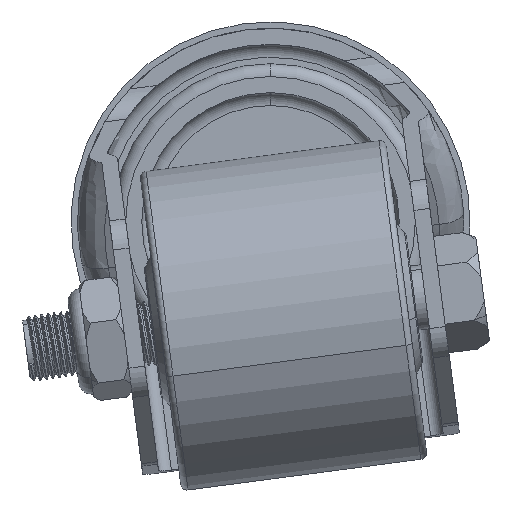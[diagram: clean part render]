
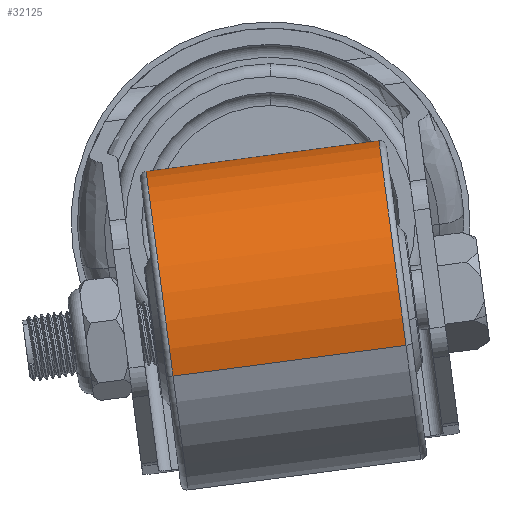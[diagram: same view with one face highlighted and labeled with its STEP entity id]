
A CAD part, front view. The second image highlights one B-rep face of the part: STEP entity #32125.
In plain terms, the highlighted cylindrical face has radius 25 mm (diameter 50 mm), a partial arc.
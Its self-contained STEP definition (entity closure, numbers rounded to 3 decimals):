
#1009 = CARTESIAN_POINT ( 'NONE',  ( 0., -18.25, 0. ) ) ;
#1684 = LINE ( 'NONE', #34051, #3868 ) ;
#2298 = VERTEX_POINT ( 'NONE', #38427 ) ;
#3868 = VECTOR ( 'NONE', #38065, 1000. ) ;
#6358 = CARTESIAN_POINT ( 'NONE',  ( 0., 18.25, 0. ) ) ;
#6888 = VERTEX_POINT ( 'NONE', #33553 ) ;
#8281 = CARTESIAN_POINT ( 'NONE',  ( 0., 0., 25. ) ) ;
#8825 = DIRECTION ( 'NONE',  ( 0., -1., 0. ) ) ;
#8968 = EDGE_CURVE ( 'NONE', #6888, #16838, #20228, .T. ) ;
#9325 = EDGE_LOOP ( 'NONE', ( #18574, #18886, #33008, #31869 ) ) ;
#14373 = DIRECTION ( 'NONE',  ( 0., 1., 0. ) ) ;
#14432 = VERTEX_POINT ( 'NONE', #31720 ) ;
#15263 = LINE ( 'NONE', #8281, #35651 ) ;
#16591 = EDGE_CURVE ( 'NONE', #16838, #2298, #15263, .T. ) ;
#16838 = VERTEX_POINT ( 'NONE', #20497 ) ;
#18574 = ORIENTED_EDGE ( 'NONE', *, *, #8968, .T. ) ;
#18886 = ORIENTED_EDGE ( 'NONE', *, *, #16591, .T. ) ;
#19594 = AXIS2_PLACEMENT_3D ( 'NONE', #6358, #37911, #34936 ) ;
#20228 = CIRCLE ( 'NONE', #19594, 25. ) ;
#20497 = CARTESIAN_POINT ( 'NONE',  ( 0., 18.25, 25. ) ) ;
#25867 = CIRCLE ( 'NONE', #30574, 25. ) ;
#28284 = FACE_OUTER_BOUND ( 'NONE', #9325, .T. ) ;
#29077 = EDGE_CURVE ( 'NONE', #2298, #14432, #25867, .T. ) ;
#30574 = AXIS2_PLACEMENT_3D ( 'NONE', #1009, #14373, #32979 ) ;
#31720 = CARTESIAN_POINT ( 'NONE',  ( 0., -18.25, -25. ) ) ;
#31869 = ORIENTED_EDGE ( 'NONE', *, *, #41451, .F. ) ;
#32125 = ADVANCED_FACE ( 'NONE', ( #28284 ), #34413, .T. ) ;
#32979 = DIRECTION ( 'NONE',  ( 0., 0., -1. ) ) ;
#33008 = ORIENTED_EDGE ( 'NONE', *, *, #29077, .T. ) ;
#33553 = CARTESIAN_POINT ( 'NONE',  ( 0., 18.25, -25. ) ) ;
#34051 = CARTESIAN_POINT ( 'NONE',  ( 0., 0., -25. ) ) ;
#34413 = CYLINDRICAL_SURFACE ( 'NONE', #41723, 25. ) ;
#34936 = DIRECTION ( 'NONE',  ( 0., 0., 1. ) ) ;
#35651 = VECTOR ( 'NONE', #41030, 1000. ) ;
#37805 = DIRECTION ( 'NONE',  ( 0., 0., -1. ) ) ;
#37911 = DIRECTION ( 'NONE',  ( 0., -1., 0. ) ) ;
#38065 = DIRECTION ( 'NONE',  ( 0., -1., 0. ) ) ;
#38427 = CARTESIAN_POINT ( 'NONE',  ( 0., -18.25, 25. ) ) ;
#41030 = DIRECTION ( 'NONE',  ( 0., -1., 0. ) ) ;
#41451 = EDGE_CURVE ( 'NONE', #6888, #14432, #1684, .T. ) ;
#41556 = CARTESIAN_POINT ( 'NONE',  ( 0., 0., 0. ) ) ;
#41723 = AXIS2_PLACEMENT_3D ( 'NONE', #41556, #8825, #37805 ) ;
